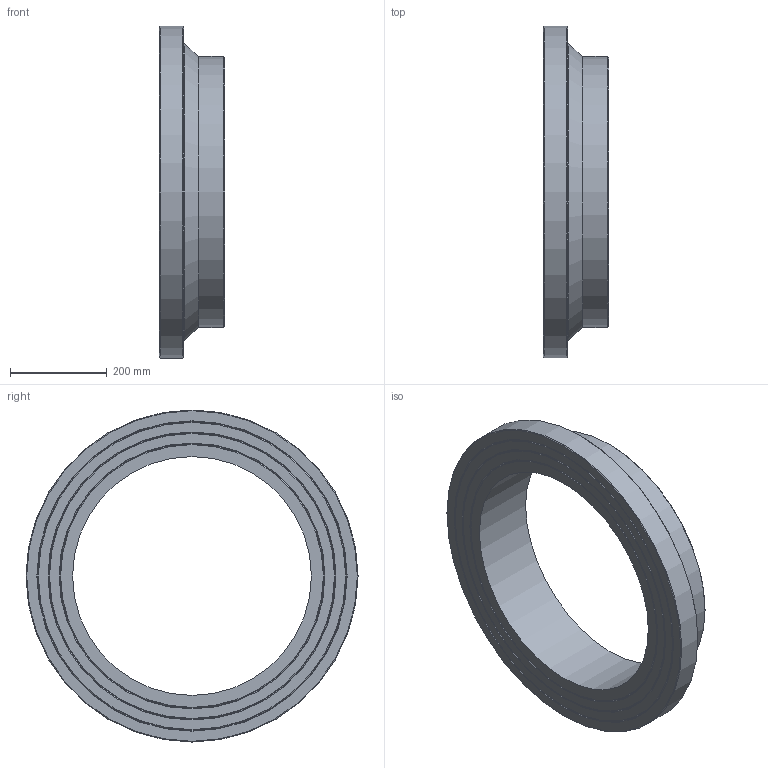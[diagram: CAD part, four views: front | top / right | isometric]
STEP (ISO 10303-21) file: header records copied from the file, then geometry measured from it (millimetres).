
FILE_DESCRIPTION(/* description */ ('Unknown'),/* implementation_level */ '2;1');
FILE_NAME(/* name */ 'CCP560B',/* time_stamp */ '2022-04-05T08:49:41+02:00',/* author */ ('Unknown'),/* organization */ ('Unknown'),/* preprocessor_version */ 'ST-DEVELOPER v18.1',/* originating_system */ 'Solid Edge',/* authorisation */ 'Unknown');
FILE_SCHEMA (('AUTOMOTIVE_DESIGN {1 0 10303 214 3 1 1}'));
Length unit declared in the file: millimetre
Products named in the file (1): CCP560B
Bounding box: 135 x 686 x 686 mm (x, y, z)
Volume: 14339692.5 mm3; surface area: 791344.8 mm2
Topology: 1 solids, 1 shells, 20 faces, 35 edges, 21 vertices
Faces by surface type: cone 10, plane 6, cylinder 3, torus 1
Full cylindrical faces by diameter (mm): 493.6 x1, 560 x1, 686 x1
Entity records: 438 total; most frequent: DIRECTION 82, CARTESIAN_POINT 61, AXIS2_PLACEMENT_3D 41, ORIENTED_EDGE 40, EDGE_LOOP 40, FACE_BOUND 40, EDGE_CURVE 20, VERTEX_POINT 20
